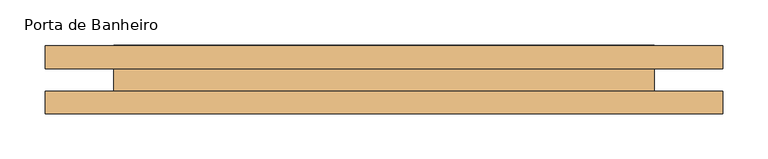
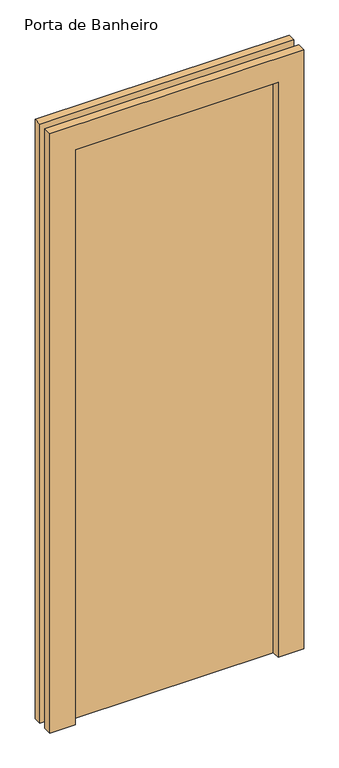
"""IFC4 building model written with IfcOpenShell, lengths in millimetres: door geometry, M_Folha única : Porta de Banheiro."""

from ifc_helpers import new_model, si_unit, frame, origin, origin_with_axes, place, context, project, spatial, polyline, outline, extrude, source, transform, mapped, element, save


def porta_de_banheiro_1c1a7de0(model_context):
    return source(origin(), model_context, "Body", "SweptSolid", [
        extrude(outline(polyline([(1876.0, -376.0), (0.0, -376.0), (0.0, -300.0), (1800.0, -300.0), (1800.0, 300.0), (0.0, 300.0), (0.0, 376.0), (1876.0, 376.0), (1876.0, -376.0)])), frame((0.0, -37.5, 0.0), z_axis=(0.0, 1.0, 0.0), x_axis=(0.0, 0.0, 1.0)), (0.0, 0.0, 1.0), 25.0),
        extrude(outline(polyline([(1876.0, 376.0), (1876.0, -376.0), (0.0, -376.0), (0.0, -300.0), (1800.0, -300.0), (1800.0, 300.0), (0.0, 300.0), (0.0, 376.0), (1876.0, 376.0)])), frame((0.0, 12.5, 0.0), z_axis=(0.0, 1.0, 0.0), x_axis=(0.0, 0.0, 1.0)), (0.0, 0.0, 1.0), 25.0),
        extrude(outline(polyline([(300.0, 38.5), (300.0, -12.5), (-300.0, -12.5), (-300.0, 38.5), (300.0, 38.5)])), origin_with_axes(), (0.0, 0.0, 1.0), 1800.0),
    ])


if __name__ == "__main__":
    model = new_model("IFC4")
    model_context = context("Model", 3, world=origin())
    ifc_project = project(units=[si_unit("LENGTHUNIT", "METRE", prefix="MILLI")], contexts=[model_context])
    site = spatial("IfcSite", under=ifc_project)
    building = spatial("IfcBuilding", under=site)
    placement = place(None, origin())
    porta_de_banheiro_shape = porta_de_banheiro_1c1a7de0(model_context)
    element("IfcDoor", 1, ObjectType="M_Folha única : Porta de Banheiro", at=placement, inside=building, context=model_context, shape_type="MappedRepresentation", body=[
        mapped(porta_de_banheiro_shape, transform((0.0, 0.0, 0.0), x_axis=(1.0, 0.0, 0.0), y_axis=(0.0, 1.0, 0.0), z_axis=(0.0, 0.0, 1.0))),
    ])
    save(model, "model.ifc")
